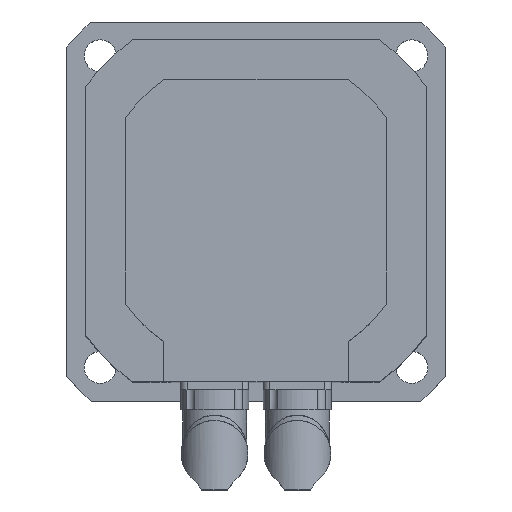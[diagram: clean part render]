
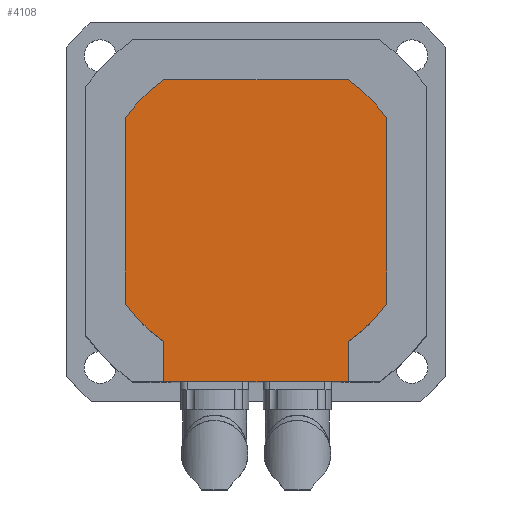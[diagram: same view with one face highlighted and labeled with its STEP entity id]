
A CAD part, top view. The second image highlights one B-rep face of the part: STEP entity #4108.
In plain terms, the highlighted planar face has unit normal (0, 0, 1).
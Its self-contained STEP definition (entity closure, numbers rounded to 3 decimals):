
#3264=CARTESIAN_POINT('',(-49.,-34.627,45.0));
#3265=VERTEX_POINT('',#3264);
#3272=CARTESIAN_POINT('',(-49.,34.627,45.0));
#3273=VERTEX_POINT('',#3272);
#3274=CARTESIAN_POINT('',(-49.,34.627,45.0));
#3275=DIRECTION('',(0.0,-1.0,0.0));
#3276=VECTOR('',#3275,69.253);
#3277=LINE('',#3274,#3276);
#3278=EDGE_CURVE('',#3273,#3265,#3277,.T.);
#3322=CARTESIAN_POINT('',(49.0,34.627,45.0));
#3323=VERTEX_POINT('',#3322);
#3330=CARTESIAN_POINT('',(49.0,-34.627,45.0));
#3331=VERTEX_POINT('',#3330);
#3332=CARTESIAN_POINT('',(49.0,-34.627,45.0));
#3333=DIRECTION('',(0.0,1.0,0.0));
#3334=VECTOR('',#3333,69.253);
#3335=LINE('',#3332,#3334);
#3336=EDGE_CURVE('',#3331,#3323,#3335,.T.);
#3678=CARTESIAN_POINT('',(-34.627,49.0,45.0));
#3679=VERTEX_POINT('',#3678);
#3686=CARTESIAN_POINT('',(34.627,49.0,45.0));
#3687=VERTEX_POINT('',#3686);
#3688=CARTESIAN_POINT('',(34.627,49.0,45.0));
#3689=DIRECTION('',(-1.0,0.0,0.0));
#3690=VECTOR('',#3689,69.253);
#3691=LINE('',#3688,#3690);
#3692=EDGE_CURVE('',#3687,#3679,#3691,.T.);
#3710=CARTESIAN_POINT('',(34.627,-49.0,45.0));
#3711=VERTEX_POINT('',#3710);
#3712=CARTESIAN_POINT('',(0.0,0.0,45.0));
#3713=DIRECTION('',(0.0,0.0,-1.0));
#3714=DIRECTION('',(-1.0,0.0,0.0));
#3715=AXIS2_PLACEMENT_3D('',#3712,#3713,#3714);
#3716=CIRCLE('',#3715,60.0);
#3717=EDGE_CURVE('',#3331,#3711,#3716,.T.);
#3735=CARTESIAN_POINT('',(0.0,0.0,45.0));
#3736=DIRECTION('',(0.0,0.0,-1.0));
#3737=DIRECTION('',(-1.0,0.0,0.0));
#3738=AXIS2_PLACEMENT_3D('',#3735,#3736,#3737);
#3739=CIRCLE('',#3738,60.0);
#3740=EDGE_CURVE('',#3687,#3323,#3739,.T.);
#3753=CARTESIAN_POINT('',(0.0,0.0,45.0));
#3754=DIRECTION('',(0.0,0.0,-1.0));
#3755=DIRECTION('',(-1.0,0.0,0.0));
#3756=AXIS2_PLACEMENT_3D('',#3753,#3754,#3755);
#3757=CIRCLE('',#3756,60.0);
#3758=EDGE_CURVE('',#3273,#3679,#3757,.T.);
#3772=CARTESIAN_POINT('',(-34.627,-49.0,45.0));
#3773=VERTEX_POINT('',#3772);
#3780=CARTESIAN_POINT('',(0.0,0.0,45.0));
#3781=DIRECTION('',(0.0,0.0,-1.0));
#3782=DIRECTION('',(-1.0,0.0,0.0));
#3783=AXIS2_PLACEMENT_3D('',#3780,#3781,#3782);
#3784=CIRCLE('',#3783,60.0);
#3785=EDGE_CURVE('',#3773,#3265,#3784,.T.);
#3796=CARTESIAN_POINT('',(34.627,-64.0,45.0));
#3797=VERTEX_POINT('',#3796);
#3798=CARTESIAN_POINT('',(34.627,-49.0,45.0));
#3799=DIRECTION('',(0.0,-1.0,0.0));
#3800=VECTOR('',#3799,15.0);
#3801=LINE('',#3798,#3800);
#3802=EDGE_CURVE('',#3711,#3797,#3801,.T.);
#3821=CARTESIAN_POINT('',(-34.627,-64.0,45.0));
#3822=VERTEX_POINT('',#3821);
#3829=CARTESIAN_POINT('',(-34.627,-49.0,45.0));
#3830=DIRECTION('',(0.0,-1.0,0.0));
#3831=VECTOR('',#3830,15.0);
#3832=LINE('',#3829,#3831);
#3833=EDGE_CURVE('',#3773,#3822,#3832,.T.);
#4086=CARTESIAN_POINT('',(49.,-64.,45.0));
#4087=DIRECTION('',(0.0,0.0,-1.0));
#4088=DIRECTION('',(-1.0,0.0,0.0));
#4089=AXIS2_PLACEMENT_3D('',#4086,#4087,#4088);
#4090=PLANE('',#4089);
#4091=ORIENTED_EDGE('',*,*,#3278,.T.);
#4092=ORIENTED_EDGE('',*,*,#3785,.F.);
#4093=ORIENTED_EDGE('',*,*,#3833,.T.);
#4094=CARTESIAN_POINT('',(34.627,-64.0,45.0));
#4095=DIRECTION('',(-1.0,0.0,0.0));
#4096=VECTOR('',#4095,69.253);
#4097=LINE('',#4094,#4096);
#4098=EDGE_CURVE('',#3797,#3822,#4097,.T.);
#4099=ORIENTED_EDGE('',*,*,#4098,.F.);
#4100=ORIENTED_EDGE('',*,*,#3802,.F.);
#4101=ORIENTED_EDGE('',*,*,#3717,.F.);
#4102=ORIENTED_EDGE('',*,*,#3336,.T.);
#4103=ORIENTED_EDGE('',*,*,#3740,.F.);
#4104=ORIENTED_EDGE('',*,*,#3692,.T.);
#4105=ORIENTED_EDGE('',*,*,#3758,.F.);
#4106=EDGE_LOOP('',(#4091,#4092,#4093,#4099,#4100,#4101,#4102,#4103,#4104,#4105));
#4107=FACE_OUTER_BOUND('',#4106,.T.);
#4108=ADVANCED_FACE('',(#4107),#4090,.F.);
